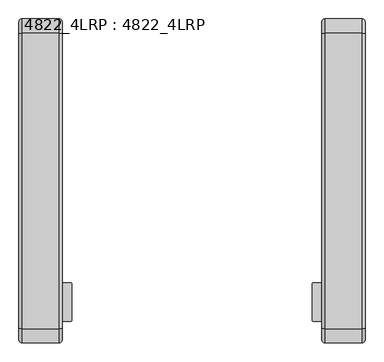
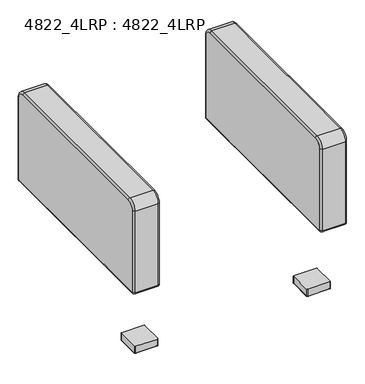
"""IFC4 building model written with IfcOpenShell, lengths in millimetres: furniture geometry, 4822_4LRP : 4822_4LRP."""

from ifc_helpers import new_model, si_unit, point, frame, frame_2d, origin, place, context, project, spatial, polyline, circle_curve, ellipse_curve, trimmed, segment, composite_curve, outline, extrude, source, transform, mapped, element, save
from ifc_brep_helpers import plane_surface, cylinder_surface, revolved_surface, advanced_brep


def furniture_4822_4lrp_4822_4lrp_52ce8049(model_context):
    return source(origin(), model_context, "Body", "SolidModel", [
        advanced_brep(
        [(457.2, -8.89, 698.8175), (457.2, -38.1, 728.0275), (457.2, -819.15, 728.0275), (457.2, -848.36, 698.8175), (457.2, -848.36, 330.4403326), (457.2, -847.8021674, 329.8825), (457.2, -9.4347305, 329.8825), (457.2, -8.89, 330.4272305), (342.9, -38.1, 728.0275), (342.9, -8.89, 698.8175), (342.9, -8.89, 330.4272305), (342.9, -9.4347305, 329.8825), (342.9, -847.8021674, 329.8825), (342.9, -848.36, 330.4403326), (342.9, -848.36, 698.8175), (342.9, -819.15, 728.0275), (351.79, -38.1, 736.9175), (351.79, -819.15, 736.9175), (448.31, -819.15, 736.9175), (448.31, -38.1, 736.9175), (351.79, -857.25, 698.8175), (448.31, -857.25, 698.8175), (351.79, -857.25, 330.4403326), (448.31, -857.25, 330.4403326), (351.79, -847.8021674, 320.9925), (448.31, -847.8021674, 320.9925), (351.79, -9.4347305, 320.9925), (448.31, -9.4347305, 320.9925), (400.05, -161.925, 320.9925), (400.05, -187.325, 320.9925), (400.05, -669.925, 320.9925), (400.05, -695.325, 320.9925), (351.79, 0.0, 330.4272305), (448.31, 0.0, 330.4272305), (351.79, 0.0, 698.8175), (448.31, 0.0, 698.8175), (400.05, -161.925, 333.6925), (400.05, -187.325, 333.6925), (400.05, -669.925, 333.6925), (400.05, -695.325, 333.6925)],
        [
            (0, 1, circle_curve(frame((457.2, -38.1, 698.8175), z_axis=(1.0, 0.0, 0.0), x_axis=(0.0, 0.0, 1.0)), 29.21)),
            (1, 2),
            (2, 3, circle_curve(frame((457.2, -819.15, 698.8175), z_axis=(1.0, 0.0, 0.0), x_axis=(0.0, -1.0, 0.0)), 29.21)),
            (3, 4),
            (4, 5, circle_curve(frame((457.2, -847.8021674, 330.4403326), z_axis=(1.0, 0.0, 0.0), x_axis=(0.0, 0.0, -1.0)), 0.5578326)),
            (5, 6),
            (6, 7, circle_curve(frame((457.2, -9.4347305, 330.4272305), z_axis=(1.0, 0.0, 0.0), x_axis=(0.0, 1.0, 0.0)), 0.5447305)),
            (7, 0),
            (8, 9, circle_curve(frame((342.9, -38.1, 698.8175), z_axis=(-1.0, 0.0, 0.0), x_axis=(0.0, 0.0, 1.0)), 29.21)),
            (9, 10),
            (10, 11, circle_curve(frame((342.9, -9.4347305, 330.4272305), z_axis=(-1.0, 0.0, 0.0), x_axis=(0.0, 1.0, 0.0)), 0.5447305)),
            (11, 12),
            (12, 13, circle_curve(frame((342.9, -847.8021674, 330.4403326), z_axis=(-1.0, 0.0, 0.0), x_axis=(0.0, 0.0, -1.0)), 0.5578326)),
            (13, 14),
            (14, 15, circle_curve(frame((342.9, -819.15, 698.8175), z_axis=(-1.0, 0.0, 0.0), x_axis=(0.0, -1.0, 0.0)), 29.21)),
            (15, 8),
            (16, 17),
            (17, 18),
            (18, 19),
            (19, 16),
            (17, 20, circle_curve(frame((351.79, -819.15, 698.8175), z_axis=(1.0, 0.0, 0.0), x_axis=(0.0, -1.0, 0.0)), 38.1)),
            (20, 21),
            (21, 18, circle_curve(frame((448.31, -819.15, 698.8175), z_axis=(-1.0, 0.0, 0.0), x_axis=(0.0, -1.0, 0.0)), 38.1)),
            (20, 22),
            (22, 23),
            (23, 21),
            (22, 24, circle_curve(frame((351.79, -847.8021674, 330.4403326), z_axis=(1.0, 0.0, 0.0), x_axis=(0.0, -1.0, 0.0)), 9.4478326)),
            (24, 25),
            (25, 23, circle_curve(frame((448.31, -847.8021674, 330.4403326), z_axis=(-1.0, 0.0, 0.0), x_axis=(0.0, -1.0, 0.0)), 9.4478326)),
            (24, 26),
            (26, 27),
            (27, 25),
            (28, 29, circle_curve(frame((400.05, -174.625, 320.9925), z_axis=(0.0, 0.0, 1.0), x_axis=(1.0, 0.0, 0.0)), 12.7)),
            (29, 28),
            (30, 31, circle_curve(frame((400.05, -682.625, 320.9925), z_axis=(0.0, 0.0, 1.0), x_axis=(1.0, 0.0, 0.0)), 12.7)),
            (31, 30),
            (26, 32, circle_curve(frame((351.79, -9.4347305, 330.4272305), z_axis=(1.0, 0.0, 0.0), x_axis=(0.0, -1.0, 0.0)), 9.4347305)),
            (32, 33),
            (33, 27, circle_curve(frame((448.31, -9.4347305, 330.4272305), z_axis=(-1.0, 0.0, 0.0), x_axis=(0.0, -1.0, 0.0)), 9.4347305)),
            (32, 34),
            (34, 35),
            (35, 33),
            (34, 16, circle_curve(frame((351.79, -38.1, 698.8175), z_axis=(1.0, 0.0, 0.0), x_axis=(0.0, -1.0, 0.0)), 38.1)),
            (19, 35, circle_curve(frame((448.31, -38.1, 698.8175), z_axis=(-1.0, 0.0, 0.0), x_axis=(0.0, -1.0, 0.0)), 38.1)),
            (34, 9, circle_curve(frame((351.79, -8.89, 698.8175), z_axis=(0.0, 0.0, 1.0), x_axis=(1.0, 0.0, 0.0)), 8.89)),
            (8, 16, circle_curve(frame((351.79, -38.1, 728.0275), z_axis=(0.0, 1.0, 0.0), x_axis=(1.0, 0.0, 0.0)), 8.89)),
            (32, 10, circle_curve(frame((351.79, -8.89, 330.4272305), z_axis=(0.0, 0.0, 1.0), x_axis=(1.0, 0.0, 0.0)), 8.89)),
            (26, 11, circle_curve(frame((351.79, -9.4347305, 329.8825), z_axis=(0.0, 1.0, 0.0), x_axis=(1.0, 0.0, 0.0)), 8.89)),
            (24, 12, circle_curve(frame((351.79, -847.8021674, 329.8825), z_axis=(0.0, 1.0, 0.0), x_axis=(1.0, 0.0, 0.0)), 8.89)),
            (22, 13, circle_curve(frame((351.79, -848.36, 330.4403326), z_axis=(0.0, 0.0, -1.0), x_axis=(1.0, 0.0, 0.0)), 8.89)),
            (20, 14, circle_curve(frame((351.79, -848.36, 698.8175), z_axis=(0.0, 0.0, -1.0), x_axis=(1.0, 0.0, 0.0)), 8.89)),
            (17, 15, circle_curve(frame((351.79, -819.15, 728.0275), z_axis=(0.0, -1.0, 0.0), x_axis=(1.0, 0.0, 0.0)), 8.89)),
            (0, 35, circle_curve(frame((448.31, -8.89, 698.8175), z_axis=(0.0, 0.0, 1.0), x_axis=(-1.0, 0.0, 0.0)), 8.89)),
            (19, 1, circle_curve(frame((448.31, -38.1, 728.0275), z_axis=(0.0, 1.0, 0.0), x_axis=(-1.0, 0.0, 0.0)), 8.89)),
            (7, 33, circle_curve(frame((448.31, -8.89, 330.4272305), z_axis=(0.0, 0.0, 1.0), x_axis=(-1.0, 0.0, 0.0)), 8.89)),
            (6, 27, circle_curve(frame((448.31, -9.4347305, 329.8825), z_axis=(0.0, 1.0, 0.0), x_axis=(-1.0, 0.0, 0.0)), 8.89)),
            (5, 25, circle_curve(frame((448.31, -847.8021674, 329.8825), z_axis=(0.0, 1.0, 0.0), x_axis=(-1.0, 0.0, 0.0)), 8.89)),
            (4, 23, circle_curve(frame((448.31, -848.36, 330.4403326), z_axis=(0.0, 0.0, -1.0), x_axis=(-1.0, 0.0, 0.0)), 8.89)),
            (3, 21, circle_curve(frame((448.31, -848.36, 698.8175), z_axis=(0.0, 0.0, -1.0), x_axis=(-1.0, 0.0, 0.0)), 8.89)),
            (2, 18, circle_curve(frame((448.31, -819.15, 728.0275), z_axis=(0.0, -1.0, 0.0), x_axis=(-1.0, 0.0, 0.0)), 8.89)),
            (36, 37),
            (37, 36, circle_curve(frame((400.05, -174.625, 333.6925), z_axis=(0.0, 0.0, -1.0), x_axis=(1.0, 0.0, 0.0)), 12.7)),
            (38, 39),
            (39, 38, circle_curve(frame((400.05, -682.625, 333.6925), z_axis=(0.0, 0.0, -1.0), x_axis=(1.0, 0.0, 0.0)), 12.7)),
            (37, 29),
            (28, 36),
            (39, 31),
            (30, 38),
        ],
        [
            plane_surface(frame((457.2, -819.15, 736.9175), z_axis=(1.0, 0.0, 0.0), x_axis=(0.0, -1.0, 0.0))),
            plane_surface(frame((342.9, -819.15, 736.9175), z_axis=(-1.0, 0.0, 0.0), x_axis=(0.0, 1.0, 0.0))),
            plane_surface(frame((457.2, -38.1, 736.9175), z_axis=(0.0, 0.0, 1.0), x_axis=(-1.0, 0.0, 0.0))),
            cylinder_surface(frame((342.9, -819.15, 698.8175), z_axis=(1.0, 0.0, 0.0), x_axis=(0.0, -1.0, 0.0)), 38.1),
            plane_surface(frame((457.2, -857.25, 698.8175), z_axis=(0.0, -1.0, 0.0), x_axis=(-1.0, 0.0, 0.0))),
            cylinder_surface(frame((342.9, -847.8021674, 330.4403326), z_axis=(1.0, 0.0, 0.0), x_axis=(0.0, -1.0, 0.0)), 9.4478326),
            plane_surface(frame((457.2, -847.8021674, 320.9925), z_axis=(0.0, 0.0, -1.0), x_axis=(-1.0, 0.0, 0.0))),
            cylinder_surface(frame((342.9, -9.4347305, 330.4272305), z_axis=(1.0, 0.0, 0.0), x_axis=(0.0, -1.0, 0.0)), 9.4347305),
            plane_surface(frame((457.2, 0.0, 330.4272305), z_axis=(0.0, 1.0, 0.0), x_axis=(-1.0, 0.0, 0.0))),
            cylinder_surface(frame((342.9, -38.1, 698.8175), z_axis=(1.0, 0.0, 0.0), x_axis=(0.0, -1.0, 0.0)), 38.1),
            revolved_surface(trimmed(ellipse_curve(frame((351.79, -38.1, 728.0275), z_axis=(0.0, -1.0, 0.0), x_axis=(1.0, 0.0, 0.0)), 8.89, 8.89), [point((351.79, -38.1, 736.9175))], [point((342.9, -38.1, 728.0275))], True, "CARTESIAN"), (342.9, -38.1, 698.8175), (-1.0, 0.0, 0.0)),
            cylinder_surface(frame((351.79, -8.89, 698.8175), z_axis=(0.0, 0.0, -1.0), x_axis=(1.0, 0.0, 0.0)), 8.89),
            revolved_surface(trimmed(ellipse_curve(frame((351.79, -8.89, 330.4272305), z_axis=(0.0, 0.0, 1.0), x_axis=(1.0, 0.0, 0.0)), 8.89, 8.89), [point((351.79, 0.0, 330.4272305))], [point((342.9, -8.89, 330.4272305))], True, "CARTESIAN"), (342.9, -9.4347305, 330.4272305), (-1.0, 0.0, 0.0)),
            cylinder_surface(frame((351.79, -9.4347305, 329.8825), z_axis=(0.0, -1.0, 0.0), x_axis=(1.0, 0.0, 0.0)), 8.89),
            revolved_surface(trimmed(ellipse_curve(frame((351.79, -847.8021674, 329.8825), z_axis=(0.0, 1.0, 0.0), x_axis=(1.0, 0.0, 0.0)), 8.89, 8.89), [point((351.79, -847.8021674, 320.9925))], [point((342.9, -847.8021674, 329.8825))], True, "CARTESIAN"), (342.9, -847.8021674, 330.4403326), (-1.0, 0.0, 0.0)),
            cylinder_surface(frame((351.79, -848.36, 330.4403326), z_axis=(0.0, 0.0, 1.0), x_axis=(1.0, 0.0, 0.0)), 8.89),
            revolved_surface(trimmed(ellipse_curve(frame((351.79, -848.36, 698.8175), z_axis=(0.0, 0.0, -1.0), x_axis=(1.0, 0.0, 0.0)), 8.89, 8.89), [point((351.79, -857.25, 698.8175))], [point((342.9, -848.36, 698.8175))], True, "CARTESIAN"), (342.9, -819.15, 698.8175), (-1.0, 0.0, 0.0)),
            cylinder_surface(frame((351.79, -819.15, 728.0275), z_axis=(0.0, 1.0, 0.0), x_axis=(1.0, 0.0, 0.0)), 8.89),
            revolved_surface(trimmed(ellipse_curve(frame((448.31, -38.1, 728.0275), z_axis=(0.0, -1.0, 0.0), x_axis=(-1.0, 0.0, 0.0)), 8.89, 8.89), [point((457.2, -38.1, 728.0275))], [point((448.31, -38.1, 736.9175))], True, "CARTESIAN"), (457.2, -38.1, 698.8175), (-1.0, 0.0, 0.0)),
            cylinder_surface(frame((448.31, -8.89, 698.8175), z_axis=(0.0, 0.0, -1.0), x_axis=(-1.0, 0.0, 0.0)), 8.89),
            revolved_surface(trimmed(ellipse_curve(frame((448.31, -8.89, 330.4272305), z_axis=(0.0, 0.0, 1.0), x_axis=(-1.0, 0.0, 0.0)), 8.89, 8.89), [point((457.2, -8.89, 330.4272305))], [point((448.31, 0.0, 330.4272305))], True, "CARTESIAN"), (457.2, -9.4347305, 330.4272305), (-1.0, 0.0, 0.0)),
            cylinder_surface(frame((448.31, -9.4347305, 329.8825), z_axis=(0.0, -1.0, 0.0), x_axis=(-1.0, 0.0, 0.0)), 8.89),
            revolved_surface(trimmed(ellipse_curve(frame((448.31, -847.8021674, 329.8825), z_axis=(0.0, 1.0, 0.0), x_axis=(-1.0, 0.0, 0.0)), 8.89, 8.89), [point((457.2, -847.8021674, 329.8825))], [point((448.31, -847.8021674, 320.9925))], True, "CARTESIAN"), (457.2, -847.8021674, 330.4403326), (-1.0, 0.0, 0.0)),
            cylinder_surface(frame((448.31, -848.36, 330.4403326), z_axis=(0.0, 0.0, 1.0), x_axis=(-1.0, 0.0, 0.0)), 8.89),
            revolved_surface(trimmed(ellipse_curve(frame((448.31, -848.36, 698.8175), z_axis=(0.0, 0.0, -1.0), x_axis=(-1.0, 0.0, 0.0)), 8.89, 8.89), [point((457.2, -848.36, 698.8175))], [point((448.31, -857.25, 698.8175))], True, "CARTESIAN"), (457.2, -819.15, 698.8175), (-1.0, 0.0, 0.0)),
            cylinder_surface(frame((448.31, -819.15, 728.0275), z_axis=(0.0, 1.0, 0.0), x_axis=(-1.0, 0.0, 0.0)), 8.89),
            plane_surface(frame((412.75, -174.625, 333.6925), z_axis=(0.0, 0.0, -1.0), x_axis=(0.0, 1.0, 0.0))),
            revolved_surface(polyline([(412.75, -174.625, 333.6925), (412.75, -174.625, 320.9925)]), (400.05, -174.625, 320.9925), (0.0, 0.0, 1.0)),
            plane_surface(frame((400.05, -187.325, 333.6925), z_axis=(-1.0, 0.0, 0.0), x_axis=(0.0, 0.0, -1.0))),
            revolved_surface(polyline([(412.75, -682.625, 333.6925), (412.75, -682.625, 320.9925)]), (400.05, -682.625, 9.8425), (0.0, 0.0, 1.0)),
            plane_surface(frame((400.05, -695.325, 333.6925), z_axis=(-1.0, 0.0, 0.0), x_axis=(0.0, 0.0, -1.0))),
        ],
        [
            (0, [[1, 2, 3, 4, 5, 6, 7, 8]]),
            (1, [[9, 10, 11, 12, 13, 14, 15, 16]]),
            (2, [[17, 18, 19, 20]]),
            (3, [[21, 22, 23, -18]]),
            (4, [[24, 25, 26, -22]]),
            (5, [[27, 28, 29, -25]]),
            (6, [[30, 31, 32, -28], [33, 34], [35, 36]]),
            (7, [[37, 38, 39, -31]]),
            (8, [[40, 41, 42, -38]]),
            (9, [[43, -20, 44, -41]]),
            (10, [[45, -9, 46, -43]]),
            (11, [[-45, -40, 47, -10]]),
            (12, [[-47, -37, 48, -11]]),
            (13, [[-48, -30, 49, -12]]),
            (14, [[-49, -27, 50, -13]]),
            (15, [[-50, -24, 51, -14]]),
            (16, [[-51, -21, 52, -15]]),
            (17, [[-46, -16, -52, -17]]),
            (18, [[53, -44, 54, -1]]),
            (19, [[-53, -8, 55, -42]]),
            (20, [[-55, -7, 56, -39]]),
            (21, [[-56, -6, 57, -32]]),
            (22, [[-57, -5, 58, -29]]),
            (23, [[-58, -4, 59, -26]]),
            (24, [[-59, -3, 60, -23]]),
            (25, [[-54, -19, -60, -2]]),
            (26, [[61, 62]]),
            (26, [[63, 64]]),
            (27, [[-62, 65, -33, 66]]),
            (28, [[-61, -66, -34, -65]]),
            (29, [[-64, 67, -35, 68]]),
            (30, [[-63, -68, -36, -67]]),
        ],
    ),
        advanced_brep(
        [(-342.9, -8.89, 698.8175), (-342.9, -38.1, 728.0275), (-342.9, -819.15, 728.0275), (-342.9, -848.36, 698.8175), (-342.9, -848.36, 330.4403326), (-342.9, -847.8021674, 329.8825), (-342.9, -9.4347305, 329.8825), (-342.9, -8.89, 330.4272305), (-457.2, -38.1, 728.0275), (-457.2, -8.89, 698.8175), (-457.2, -8.89, 330.4272305), (-457.2, -9.4347305, 329.8825), (-457.2, -847.8021674, 329.8825), (-457.2, -848.36, 330.4403326), (-457.2, -848.36, 698.8175), (-457.2, -819.15, 728.0275), (-448.31, -38.1, 736.9175), (-448.31, -819.15, 736.9175), (-351.79, -819.15, 736.9175), (-351.79, -38.1, 736.9175), (-448.31, -857.25, 698.8175), (-351.79, -857.25, 698.8175), (-448.31, -857.25, 330.4403326), (-351.79, -857.25, 330.4403326), (-448.31, -847.8021674, 320.9925), (-351.79, -847.8021674, 320.9925), (-448.31, -9.4347305, 320.9925), (-351.79, -9.4347305, 320.9925), (-400.05, -187.325, 320.9925), (-400.05, -161.925, 320.9925), (-400.05, -695.325, 320.9925), (-400.05, -669.925, 320.9925), (-448.31, 0.0, 330.4272305), (-351.79, 0.0, 330.4272305), (-448.31, 0.0, 698.8175), (-351.79, 0.0, 698.8175), (-400.05, -161.925, 333.6925), (-400.05, -187.325, 333.6925), (-400.05, -669.925, 333.6925), (-400.05, -695.325, 333.6925)],
        [
            (0, 1, circle_curve(frame((-342.9, -38.1, 698.8175), z_axis=(1.0, 0.0, 0.0), x_axis=(0.0, 0.0, 1.0)), 29.21)),
            (1, 2),
            (2, 3, circle_curve(frame((-342.9, -819.15, 698.8175), z_axis=(1.0, 0.0, 0.0), x_axis=(0.0, -1.0, 0.0)), 29.21)),
            (3, 4),
            (4, 5, circle_curve(frame((-342.9, -847.8021674, 330.4403326), z_axis=(1.0, 0.0, 0.0), x_axis=(0.0, 0.0, -1.0)), 0.5578326)),
            (5, 6),
            (6, 7, circle_curve(frame((-342.9, -9.4347305, 330.4272305), z_axis=(1.0, 0.0, 0.0), x_axis=(0.0, 1.0, 0.0)), 0.5447305)),
            (7, 0),
            (8, 9, circle_curve(frame((-457.2, -38.1, 698.8175), z_axis=(-1.0, 0.0, 0.0), x_axis=(0.0, 0.0, 1.0)), 29.21)),
            (9, 10),
            (10, 11, circle_curve(frame((-457.2, -9.4347305, 330.4272305), z_axis=(-1.0, 0.0, 0.0), x_axis=(0.0, 1.0, 0.0)), 0.5447305)),
            (11, 12),
            (12, 13, circle_curve(frame((-457.2, -847.8021674, 330.4403326), z_axis=(-1.0, 0.0, 0.0), x_axis=(0.0, 0.0, -1.0)), 0.5578326)),
            (13, 14),
            (14, 15, circle_curve(frame((-457.2, -819.15, 698.8175), z_axis=(-1.0, 0.0, 0.0), x_axis=(0.0, -1.0, 0.0)), 29.21)),
            (15, 8),
            (16, 17),
            (17, 18),
            (18, 19),
            (19, 16),
            (17, 20, circle_curve(frame((-448.31, -819.15, 698.8175), z_axis=(1.0, 0.0, 0.0), x_axis=(0.0, -1.0, 0.0)), 38.1)),
            (20, 21),
            (21, 18, circle_curve(frame((-351.79, -819.15, 698.8175), z_axis=(-1.0, 0.0, 0.0), x_axis=(0.0, -1.0, 0.0)), 38.1)),
            (20, 22),
            (22, 23),
            (23, 21),
            (22, 24, circle_curve(frame((-448.31, -847.8021674, 330.4403326), z_axis=(1.0, 0.0, 0.0), x_axis=(0.0, -1.0, 0.0)), 9.4478326)),
            (24, 25),
            (25, 23, circle_curve(frame((-351.79, -847.8021674, 330.4403326), z_axis=(-1.0, 0.0, 0.0), x_axis=(0.0, -1.0, 0.0)), 9.4478326)),
            (24, 26),
            (26, 27),
            (27, 25),
            (28, 29, circle_curve(frame((-400.05, -174.625, 320.9925), z_axis=(0.0, 0.0, 1.0), x_axis=(-1.0, 0.0, 0.0)), 12.7)),
            (29, 28),
            (30, 31, circle_curve(frame((-400.05, -682.625, 320.9925), z_axis=(0.0, 0.0, 1.0), x_axis=(-1.0, 0.0, 0.0)), 12.7)),
            (31, 30),
            (26, 32, circle_curve(frame((-448.31, -9.4347305, 330.4272305), z_axis=(1.0, 0.0, 0.0), x_axis=(0.0, -1.0, 0.0)), 9.4347305)),
            (32, 33),
            (33, 27, circle_curve(frame((-351.79, -9.4347305, 330.4272305), z_axis=(-1.0, 0.0, 0.0), x_axis=(0.0, -1.0, 0.0)), 9.4347305)),
            (32, 34),
            (34, 35),
            (35, 33),
            (34, 16, circle_curve(frame((-448.31, -38.1, 698.8175), z_axis=(1.0, 0.0, 0.0), x_axis=(0.0, -1.0, 0.0)), 38.1)),
            (19, 35, circle_curve(frame((-351.79, -38.1, 698.8175), z_axis=(-1.0, 0.0, 0.0), x_axis=(0.0, -1.0, 0.0)), 38.1)),
            (34, 9, circle_curve(frame((-448.31, -8.89, 698.8175), z_axis=(0.0, 0.0, 1.0), x_axis=(1.0, 0.0, 0.0)), 8.89)),
            (8, 16, circle_curve(frame((-448.31, -38.1, 728.0275), z_axis=(0.0, 1.0, 0.0), x_axis=(1.0, 0.0, 0.0)), 8.89)),
            (32, 10, circle_curve(frame((-448.31, -8.89, 330.4272305), z_axis=(0.0, 0.0, 1.0), x_axis=(1.0, 0.0, 0.0)), 8.89)),
            (26, 11, circle_curve(frame((-448.31, -9.4347305, 329.8825), z_axis=(0.0, 1.0, 0.0), x_axis=(1.0, 0.0, 0.0)), 8.89)),
            (24, 12, circle_curve(frame((-448.31, -847.8021674, 329.8825), z_axis=(0.0, 1.0, 0.0), x_axis=(1.0, 0.0, 0.0)), 8.89)),
            (22, 13, circle_curve(frame((-448.31, -848.36, 330.4403326), z_axis=(0.0, 0.0, -1.0), x_axis=(1.0, 0.0, 0.0)), 8.89)),
            (20, 14, circle_curve(frame((-448.31, -848.36, 698.8175), z_axis=(0.0, 0.0, -1.0), x_axis=(1.0, 0.0, 0.0)), 8.89)),
            (17, 15, circle_curve(frame((-448.31, -819.15, 728.0275), z_axis=(0.0, -1.0, 0.0), x_axis=(1.0, 0.0, 0.0)), 8.89)),
            (0, 35, circle_curve(frame((-351.79, -8.89, 698.8175), z_axis=(0.0, 0.0, 1.0), x_axis=(-1.0, 0.0, 0.0)), 8.89)),
            (19, 1, circle_curve(frame((-351.79, -38.1, 728.0275), z_axis=(0.0, 1.0, 0.0), x_axis=(-1.0, 0.0, 0.0)), 8.89)),
            (7, 33, circle_curve(frame((-351.79, -8.89, 330.4272305), z_axis=(0.0, 0.0, 1.0), x_axis=(-1.0, 0.0, 0.0)), 8.89)),
            (6, 27, circle_curve(frame((-351.79, -9.4347305, 329.8825), z_axis=(0.0, 1.0, 0.0), x_axis=(-1.0, 0.0, 0.0)), 8.89)),
            (5, 25, circle_curve(frame((-351.79, -847.8021674, 329.8825), z_axis=(0.0, 1.0, 0.0), x_axis=(-1.0, 0.0, 0.0)), 8.89)),
            (4, 23, circle_curve(frame((-351.79, -848.36, 330.4403326), z_axis=(0.0, 0.0, -1.0), x_axis=(-1.0, 0.0, 0.0)), 8.89)),
            (3, 21, circle_curve(frame((-351.79, -848.36, 698.8175), z_axis=(0.0, 0.0, -1.0), x_axis=(-1.0, 0.0, 0.0)), 8.89)),
            (2, 18, circle_curve(frame((-351.79, -819.15, 728.0275), z_axis=(0.0, -1.0, 0.0), x_axis=(-1.0, 0.0, 0.0)), 8.89)),
            (36, 37, circle_curve(frame((-400.05, -174.625, 333.6925), z_axis=(0.0, 0.0, -1.0), x_axis=(-1.0, 0.0, 0.0)), 12.7)),
            (37, 36),
            (38, 39, circle_curve(frame((-400.05, -682.625, 333.6925), z_axis=(0.0, 0.0, -1.0), x_axis=(-1.0, 0.0, 0.0)), 12.7)),
            (39, 38),
            (36, 29),
            (28, 37),
            (38, 31),
            (30, 39),
        ],
        [
            plane_surface(frame((-342.9, -819.15, 736.9175), z_axis=(1.0, 0.0, 0.0), x_axis=(0.0, -1.0, 0.0))),
            plane_surface(frame((-457.2, -819.15, 736.9175), z_axis=(-1.0, 0.0, 0.0), x_axis=(0.0, 1.0, 0.0))),
            plane_surface(frame((-342.9, -38.1, 736.9175), z_axis=(0.0, 0.0, 1.0), x_axis=(-1.0, 0.0, 0.0))),
            cylinder_surface(frame((-457.2, -819.15, 698.8175), z_axis=(1.0, 0.0, 0.0), x_axis=(0.0, -1.0, 0.0)), 38.1),
            plane_surface(frame((-342.9, -857.25, 698.8175), z_axis=(0.0, -1.0, 0.0), x_axis=(-1.0, 0.0, 0.0))),
            cylinder_surface(frame((-457.2, -847.8021674, 330.4403326), z_axis=(1.0, 0.0, 0.0), x_axis=(0.0, -1.0, 0.0)), 9.4478326),
            plane_surface(frame((-342.9, -847.8021674, 320.9925), z_axis=(0.0, 0.0, -1.0), x_axis=(-1.0, 0.0, 0.0))),
            cylinder_surface(frame((-457.2, -9.4347305, 330.4272305), z_axis=(1.0, 0.0, 0.0), x_axis=(0.0, -1.0, 0.0)), 9.4347305),
            plane_surface(frame((-342.9, 0.0, 330.4272305), z_axis=(0.0, 1.0, 0.0), x_axis=(-1.0, 0.0, 0.0))),
            cylinder_surface(frame((-457.2, -38.1, 698.8175), z_axis=(1.0, 0.0, 0.0), x_axis=(0.0, -1.0, 0.0)), 38.1),
            revolved_surface(trimmed(ellipse_curve(frame((-448.31, -38.1, 728.0275), z_axis=(0.0, -1.0, 0.0), x_axis=(1.0, 0.0, 0.0)), 8.89, 8.89), [point((-448.31, -38.1, 736.9175))], [point((-457.2, -38.1, 728.0275))], True, "CARTESIAN"), (-457.2, -38.1, 698.8175), (-1.0, 0.0, 0.0)),
            cylinder_surface(frame((-448.31, -8.89, 698.8175), z_axis=(0.0, 0.0, -1.0), x_axis=(1.0, 0.0, 0.0)), 8.89),
            revolved_surface(trimmed(ellipse_curve(frame((-448.31, -8.89, 330.4272305), z_axis=(0.0, 0.0, 1.0), x_axis=(1.0, 0.0, 0.0)), 8.89, 8.89), [point((-448.31, 0.0, 330.4272305))], [point((-457.2, -8.89, 330.4272305))], True, "CARTESIAN"), (-457.2, -9.4347305, 330.4272305), (-1.0, 0.0, 0.0)),
            cylinder_surface(frame((-448.31, -9.4347305, 329.8825), z_axis=(0.0, -1.0, 0.0), x_axis=(1.0, 0.0, 0.0)), 8.89),
            revolved_surface(trimmed(ellipse_curve(frame((-448.31, -847.8021674, 329.8825), z_axis=(0.0, 1.0, 0.0), x_axis=(1.0, 0.0, 0.0)), 8.89, 8.89), [point((-448.31, -847.8021674, 320.9925))], [point((-457.2, -847.8021674, 329.8825))], True, "CARTESIAN"), (-457.2, -847.8021674, 330.4403326), (-1.0, 0.0, 0.0)),
            cylinder_surface(frame((-448.31, -848.36, 330.4403326), z_axis=(0.0, 0.0, 1.0), x_axis=(1.0, 0.0, 0.0)), 8.89),
            revolved_surface(trimmed(ellipse_curve(frame((-448.31, -848.36, 698.8175), z_axis=(0.0, 0.0, -1.0), x_axis=(1.0, 0.0, 0.0)), 8.89, 8.89), [point((-448.31, -857.25, 698.8175))], [point((-457.2, -848.36, 698.8175))], True, "CARTESIAN"), (-457.2, -819.15, 698.8175), (-1.0, 0.0, 0.0)),
            cylinder_surface(frame((-448.31, -819.15, 728.0275), z_axis=(0.0, 1.0, 0.0), x_axis=(1.0, 0.0, 0.0)), 8.89),
            revolved_surface(trimmed(ellipse_curve(frame((-351.79, -38.1, 728.0275), z_axis=(0.0, -1.0, 0.0), x_axis=(-1.0, 0.0, 0.0)), 8.89, 8.89), [point((-342.9, -38.1, 728.0275))], [point((-351.79, -38.1, 736.9175))], True, "CARTESIAN"), (-342.9, -38.1, 698.8175), (-1.0, 0.0, 0.0)),
            cylinder_surface(frame((-351.79, -8.89, 698.8175), z_axis=(0.0, 0.0, -1.0), x_axis=(-1.0, 0.0, 0.0)), 8.89),
            revolved_surface(trimmed(ellipse_curve(frame((-351.79, -8.89, 330.4272305), z_axis=(0.0, 0.0, 1.0), x_axis=(-1.0, 0.0, 0.0)), 8.89, 8.89), [point((-342.9, -8.89, 330.4272305))], [point((-351.79, 0.0, 330.4272305))], True, "CARTESIAN"), (-342.9, -9.4347305, 330.4272305), (-1.0, 0.0, 0.0)),
            cylinder_surface(frame((-351.79, -9.4347305, 329.8825), z_axis=(0.0, -1.0, 0.0), x_axis=(-1.0, 0.0, 0.0)), 8.89),
            revolved_surface(trimmed(ellipse_curve(frame((-351.79, -847.8021674, 329.8825), z_axis=(0.0, 1.0, 0.0), x_axis=(-1.0, 0.0, 0.0)), 8.89, 8.89), [point((-342.9, -847.8021674, 329.8825))], [point((-351.79, -847.8021674, 320.9925))], True, "CARTESIAN"), (-342.9, -847.8021674, 330.4403326), (-1.0, 0.0, 0.0)),
            cylinder_surface(frame((-351.79, -848.36, 330.4403326), z_axis=(0.0, 0.0, 1.0), x_axis=(-1.0, 0.0, 0.0)), 8.89),
            revolved_surface(trimmed(ellipse_curve(frame((-351.79, -848.36, 698.8175), z_axis=(0.0, 0.0, -1.0), x_axis=(-1.0, 0.0, 0.0)), 8.89, 8.89), [point((-342.9, -848.36, 698.8175))], [point((-351.79, -857.25, 698.8175))], True, "CARTESIAN"), (-342.9, -819.15, 698.8175), (-1.0, 0.0, 0.0)),
            cylinder_surface(frame((-351.79, -819.15, 728.0275), z_axis=(0.0, 1.0, 0.0), x_axis=(-1.0, 0.0, 0.0)), 8.89),
            plane_surface(frame((-400.05, -187.325, 333.6925), z_axis=(0.0, 0.0, -1.0), x_axis=(0.0, -1.0, 0.0))),
            revolved_surface(polyline([(-412.75, -174.625, 333.6925), (-412.75, -174.625, 320.9925)]), (-400.05, -174.625, 320.9925), (0.0, 0.0, 1.0)),
            plane_surface(frame((-400.05, -161.925, 333.6925), z_axis=(1.0, 0.0, 0.0), x_axis=(0.0, 0.0, -1.0))),
            revolved_surface(polyline([(-412.75, -682.625, 333.6925), (-412.75, -682.625, 320.9925)]), (-400.05, -682.625, 9.8425), (0.0, 0.0, 1.0)),
            plane_surface(frame((-400.05, -669.925, 333.6925), z_axis=(1.0, 0.0, 0.0), x_axis=(0.0, 0.0, -1.0))),
        ],
        [
            (0, [[1, 2, 3, 4, 5, 6, 7, 8]]),
            (1, [[9, 10, 11, 12, 13, 14, 15, 16]]),
            (2, [[17, 18, 19, 20]]),
            (3, [[21, 22, 23, -18]]),
            (4, [[24, 25, 26, -22]]),
            (5, [[27, 28, 29, -25]]),
            (6, [[30, 31, 32, -28], [33, 34], [35, 36]]),
            (7, [[37, 38, 39, -31]]),
            (8, [[40, 41, 42, -38]]),
            (9, [[43, -20, 44, -41]]),
            (10, [[45, -9, 46, -43]]),
            (11, [[-45, -40, 47, -10]]),
            (12, [[-47, -37, 48, -11]]),
            (13, [[-48, -30, 49, -12]]),
            (14, [[-49, -27, 50, -13]]),
            (15, [[-50, -24, 51, -14]]),
            (16, [[-51, -21, 52, -15]]),
            (17, [[-46, -16, -52, -17]]),
            (18, [[53, -44, 54, -1]]),
            (19, [[-53, -8, 55, -42]]),
            (20, [[-55, -7, 56, -39]]),
            (21, [[-56, -6, 57, -32]]),
            (22, [[-57, -5, 58, -29]]),
            (23, [[-58, -4, 59, -26]]),
            (24, [[-59, -3, 60, -23]]),
            (25, [[-54, -19, -60, -2]]),
            (26, [[61, 62]]),
            (26, [[63, 64]]),
            (27, [[-61, 65, -33, 66]]),
            (28, [[-62, -66, -34, -65]]),
            (29, [[-63, 67, -35, 68]]),
            (30, [[-64, -68, -36, -67]]),
        ],
    ),
        advanced_brep(
        [(-320.675, -698.5, 41.5925), (-415.925, -698.5, 41.5925), (-419.1, -701.675, 41.5925), (-419.1, -796.925, 41.5925), (-415.925, -800.1, 41.5925), (-320.675, -800.1, 41.5925), (-317.5, -796.925, 41.5925), (-317.5, -701.675, 41.5925), (-417.83, -701.675, 11.1125), (-415.925, -699.77, 11.1125), (-320.675, -699.77, 11.1125), (-318.77, -701.675, 11.1125), (-318.77, -796.925, 11.1125), (-320.675, -798.83, 11.1125), (-415.925, -798.83, 11.1125), (-417.83, -796.925, 11.1125), (-320.675, -698.5, 11.1125), (-415.925, -698.5, 11.1125), (-419.1, -701.675, 11.1125), (-419.1, -796.925, 11.1125), (-415.925, -800.1, 11.1125), (-320.675, -800.1, 11.1125), (-317.5, -796.925, 11.1125), (-317.5, -701.675, 11.1125), (-415.925, -699.77, 9.8425), (-417.83, -701.675, 9.8425), (-320.675, -699.77, 9.8425), (-318.77, -701.675, 9.8425), (-318.77, -796.925, 9.8425), (-320.675, -798.83, 9.8425), (-415.925, -798.83, 9.8425), (-417.83, -796.925, 9.8425)],
        [
            (0, 1),
            (1, 2, circle_curve(frame((-415.925, -701.675, 41.5925), z_axis=(0.0, 0.0, 1.0), x_axis=(1.0, 0.0, 0.0)), 3.175)),
            (2, 3),
            (3, 4, circle_curve(frame((-415.925, -796.925, 41.5925), z_axis=(0.0, 0.0, 1.0), x_axis=(1.0, 0.0, 0.0)), 3.175)),
            (4, 5),
            (5, 6, circle_curve(frame((-320.675, -796.925, 41.5925), z_axis=(0.0, 0.0, 1.0), x_axis=(1.0, 0.0, 0.0)), 3.175)),
            (6, 7),
            (7, 0, circle_curve(frame((-320.675, -701.675, 41.5925), z_axis=(0.0, 0.0, 1.0), x_axis=(1.0, 0.0, 0.0)), 3.175)),
            (8, 9, circle_curve(frame((-415.925, -701.675, 11.1125), z_axis=(0.0, 0.0, -1.0), x_axis=(-1.0, 0.0, 0.0)), 1.905)),
            (9, 10),
            (10, 11, circle_curve(frame((-320.675, -701.675, 11.1125), z_axis=(0.0, 0.0, -1.0), x_axis=(0.0, 1.0, 0.0)), 1.905)),
            (11, 12),
            (12, 13, circle_curve(frame((-320.675, -796.925, 11.1125), z_axis=(0.0, 0.0, -1.0), x_axis=(1.0, 0.0, 0.0)), 1.905)),
            (13, 14),
            (14, 15, circle_curve(frame((-415.925, -796.925, 11.1125), z_axis=(0.0, 0.0, -1.0), x_axis=(0.0, -1.0, 0.0)), 1.905)),
            (15, 8),
            (0, 16),
            (16, 17),
            (17, 1),
            (17, 18, circle_curve(frame((-415.925, -701.675, 11.1125), z_axis=(0.0, 0.0, 1.0), x_axis=(1.0, 0.0, 0.0)), 3.175)),
            (18, 2),
            (18, 19),
            (19, 3),
            (19, 20, circle_curve(frame((-415.925, -796.925, 11.1125), z_axis=(0.0, 0.0, 1.0), x_axis=(1.0, 0.0, 0.0)), 3.175)),
            (20, 4),
            (20, 21),
            (21, 5),
            (21, 22, circle_curve(frame((-320.675, -796.925, 11.1125), z_axis=(0.0, 0.0, 1.0), x_axis=(1.0, 0.0, 0.0)), 3.175)),
            (22, 6),
            (22, 23),
            (23, 7),
            (23, 16, circle_curve(frame((-320.675, -701.675, 11.1125), z_axis=(0.0, 0.0, 1.0), x_axis=(1.0, 0.0, 0.0)), 3.175)),
            (24, 25, circle_curve(frame((-415.925, -701.675, 9.8425), z_axis=(0.0, 0.0, 1.0), x_axis=(-1.0, 0.0, 0.0)), 1.905)),
            (25, 18, circle_curve(frame((-417.83, -701.675, 11.1125), z_axis=(0.0, 1.0, 0.0), x_axis=(1.0, 0.0, 0.0)), 1.27)),
            (17, 24, circle_curve(frame((-415.925, -699.77, 11.1125), z_axis=(-1.0, 0.0, 0.0), x_axis=(0.0, -1.0, 0.0)), 1.27)),
            (16, 26, circle_curve(frame((-320.675, -699.77, 11.1125), z_axis=(-1.0, 0.0, 0.0), x_axis=(0.0, -1.0, 0.0)), 1.27)),
            (26, 24),
            (23, 27, circle_curve(frame((-318.77, -701.675, 11.1125), z_axis=(0.0, 1.0, 0.0), x_axis=(-1.0, 0.0, 0.0)), 1.27)),
            (27, 26, circle_curve(frame((-320.675, -701.675, 9.8425), z_axis=(0.0, 0.0, 1.0), x_axis=(0.0, 1.0, 0.0)), 1.905)),
            (22, 28, circle_curve(frame((-318.77, -796.925, 11.1125), z_axis=(0.0, 1.0, 0.0), x_axis=(-1.0, 0.0, 0.0)), 1.27)),
            (28, 27),
            (21, 29, circle_curve(frame((-320.675, -798.83, 11.1125), z_axis=(1.0, 0.0, 0.0), x_axis=(0.0, 1.0, 0.0)), 1.27)),
            (29, 28, circle_curve(frame((-320.675, -796.925, 9.8425), z_axis=(0.0, 0.0, 1.0), x_axis=(1.0, 0.0, 0.0)), 1.905)),
            (20, 30, circle_curve(frame((-415.925, -798.83, 11.1125), z_axis=(1.0, 0.0, 0.0), x_axis=(0.0, 1.0, 0.0)), 1.27)),
            (30, 29),
            (19, 31, circle_curve(frame((-417.83, -796.925, 11.1125), z_axis=(0.0, -1.0, 0.0), x_axis=(1.0, 0.0, 0.0)), 1.27)),
            (31, 30, circle_curve(frame((-415.925, -796.925, 9.8425), z_axis=(0.0, 0.0, 1.0), x_axis=(0.0, -1.0, 0.0)), 1.905)),
            (25, 31),
            (24, 9),
            (8, 25),
            (26, 10),
            (27, 11),
            (28, 12),
            (29, 13),
            (30, 14),
            (31, 15),
        ],
        [
            plane_surface(frame((-415.925, -698.5, 41.5925), z_axis=(0.0, 0.0, 1.0), x_axis=(-1.0, 0.0, 0.0))),
            plane_surface(frame((-415.925, -698.5, 11.1125), z_axis=(0.0, 0.0, -1.0), x_axis=(1.0, 0.0, 0.0))),
            plane_surface(frame((-320.675, -698.5, 41.5925), z_axis=(0.0, 1.0, 0.0), x_axis=(0.0, 0.0, -1.0))),
            cylinder_surface(frame((-415.925, -701.675, 11.1125), z_axis=(0.0, 0.0, 1.0), x_axis=(1.0, 0.0, 0.0)), 3.175),
            plane_surface(frame((-419.1, -701.675, 41.5925), z_axis=(-1.0, 0.0, 0.0), x_axis=(0.0, 0.0, -1.0))),
            cylinder_surface(frame((-415.925, -796.925, 11.1125), z_axis=(0.0, 0.0, 1.0), x_axis=(1.0, 0.0, 0.0)), 3.175),
            plane_surface(frame((-415.925, -800.1, 41.5925), z_axis=(0.0, -1.0, 0.0), x_axis=(0.0, 0.0, -1.0))),
            cylinder_surface(frame((-320.675, -796.925, 11.1125), z_axis=(0.0, 0.0, 1.0), x_axis=(1.0, 0.0, 0.0)), 3.175),
            plane_surface(frame((-317.5, -796.925, 41.5925), z_axis=(1.0, 0.0, 0.0), x_axis=(0.0, 0.0, -1.0))),
            cylinder_surface(frame((-320.675, -701.675, 11.1125), z_axis=(0.0, 0.0, 1.0), x_axis=(1.0, 0.0, 0.0)), 3.175),
            revolved_surface(trimmed(ellipse_curve(frame((-417.83, -701.675, 11.1125), z_axis=(0.0, -1.0, 0.0), x_axis=(1.0, 0.0, 0.0)), 1.27, 1.27), [point((-419.1, -701.675, 11.1125))], [point((-417.83, -701.675, 9.8425))], True, "CARTESIAN"), (-415.925, -701.675, 11.1125), (0.0, 0.0, -1.0)),
            cylinder_surface(frame((-415.925, -699.77, 11.1125), z_axis=(-1.0, 0.0, 0.0), x_axis=(0.0, -1.0, 0.0)), 1.27),
            revolved_surface(trimmed(ellipse_curve(frame((-320.675, -699.77, 11.1125), z_axis=(-1.0, 0.0, 0.0), x_axis=(0.0, -1.0, 0.0)), 1.27, 1.27), [point((-320.675, -698.5, 11.1125))], [point((-320.675, -699.77, 9.8425))], True, "CARTESIAN"), (-320.675, -701.675, 11.1125), (0.0, 0.0, -1.0)),
            cylinder_surface(frame((-318.77, -701.675, 11.1125), z_axis=(0.0, 1.0, 0.0), x_axis=(-1.0, 0.0, 0.0)), 1.27),
            revolved_surface(trimmed(ellipse_curve(frame((-318.77, -796.925, 11.1125), z_axis=(0.0, 1.0, 0.0), x_axis=(-1.0, 0.0, 0.0)), 1.27, 1.27), [point((-317.5, -796.925, 11.1125))], [point((-318.77, -796.925, 9.8425))], True, "CARTESIAN"), (-320.675, -796.925, 11.1125), (0.0, 0.0, -1.0)),
            cylinder_surface(frame((-320.675, -798.83, 11.1125), z_axis=(1.0, 0.0, 0.0), x_axis=(0.0, 1.0, 0.0)), 1.27),
            revolved_surface(trimmed(ellipse_curve(frame((-415.925, -798.83, 11.1125), z_axis=(1.0, 0.0, 0.0), x_axis=(0.0, 1.0, 0.0)), 1.27, 1.27), [point((-415.925, -800.1, 11.1125))], [point((-415.925, -798.83, 9.8425))], True, "CARTESIAN"), (-415.925, -796.925, 11.1125), (0.0, 0.0, -1.0)),
            cylinder_surface(frame((-417.83, -796.925, 11.1125), z_axis=(0.0, -1.0, 0.0), x_axis=(1.0, 0.0, 0.0)), 1.27),
            revolved_surface(polyline([(-417.83, -701.675, 9.8425), (-417.83, -701.675, 11.1125)]), (-415.925, -701.675, 11.1125), (0.0, 0.0, -1.0)),
            plane_surface(frame((-415.925, -699.77, 9.8425), z_axis=(0.0, -1.0, 0.0), x_axis=(1.0, 0.0, 0.0))),
            revolved_surface(polyline([(-320.675, -699.77, 9.8425), (-320.675, -699.77, 11.1125)]), (-320.675, -701.675, 11.1125), (0.0, 0.0, -1.0)),
            plane_surface(frame((-318.77, -701.675, 9.8425), z_axis=(-1.0, 0.0, 0.0), x_axis=(0.0, -1.0, 0.0))),
            revolved_surface(polyline([(-318.77000000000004, -796.925, 9.8425), (-318.77000000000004, -796.925, 11.1125)]), (-320.675, -796.925, 11.1125), (0.0, 0.0, -1.0)),
            plane_surface(frame((-320.675, -798.83, 9.8425), z_axis=(0.0, 1.0, 0.0), x_axis=(-1.0, 0.0, 0.0))),
            revolved_surface(polyline([(-415.925, -798.8299999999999, 9.8425), (-415.925, -798.8299999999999, 11.1125)]), (-415.925, -796.925, 11.1125), (0.0, 0.0, -1.0)),
            plane_surface(frame((-417.83, -796.925, 9.8425), z_axis=(1.0, 0.0, 0.0), x_axis=(0.0, 1.0, 0.0))),
        ],
        [
            (0, [[1, 2, 3, 4, 5, 6, 7, 8]]),
            (1, [[9, 10, 11, 12, 13, 14, 15, 16]]),
            (2, [[-1, 17, 18, 19]]),
            (3, [[-2, -19, 20, 21]]),
            (4, [[-3, -21, 22, 23]]),
            (5, [[-4, -23, 24, 25]]),
            (6, [[-5, -25, 26, 27]]),
            (7, [[-6, -27, 28, 29]]),
            (8, [[-7, -29, 30, 31]]),
            (9, [[-8, -31, 32, -17]]),
            (10, [[33, 34, -20, 35]]),
            (11, [[-35, -18, 36, 37]]),
            (12, [[-36, -32, 38, 39]]),
            (13, [[-38, -30, 40, 41]]),
            (14, [[-40, -28, 42, 43]]),
            (15, [[-42, -26, 44, 45]]),
            (16, [[-44, -24, 46, 47]]),
            (17, [[-34, 48, -46, -22]]),
            (18, [[-33, 49, -9, 50]]),
            (19, [[-37, 51, -10, -49]]),
            (20, [[-39, 52, -11, -51]]),
            (21, [[-41, 53, -12, -52]]),
            (22, [[-43, 54, -13, -53]]),
            (23, [[-45, 55, -14, -54]]),
            (24, [[-47, 56, -15, -55]]),
            (25, [[-48, -50, -16, -56]]),
        ],
    ),
        extrude(outline(composite_curve([segment(trimmed(circle_curve(frame_2d((-415.925, -796.925)), 1.905), [point((-415.925, -798.83))], [point((-417.83, -796.925))], False, "CARTESIAN"), True, "CONTINUOUS"), segment(polyline([(-417.83, -796.925), (-417.83, -701.675)]), True, "CONTINUOUS"), segment(trimmed(circle_curve(frame_2d((-415.925, -701.675)), 1.905), [point((-417.83, -701.675))], [point((-415.925, -699.77))], False, "CARTESIAN"), True, "CONTINUOUS"), segment(polyline([(-415.925, -699.77), (-320.675, -699.77)]), True, "CONTINUOUS"), segment(trimmed(circle_curve(frame_2d((-320.675, -701.675)), 1.905), [point((-320.675, -699.77))], [point((-318.77, -701.675))], False, "CARTESIAN"), True, "CONTINUOUS"), segment(polyline([(-318.77, -701.675), (-318.77, -796.925)]), True, "CONTINUOUS"), segment(trimmed(circle_curve(frame_2d((-320.675, -796.925)), 1.905), [point((-318.77, -796.925))], [point((-320.675, -798.83))], False, "CARTESIAN"), True, "CONTINUOUS"), segment(polyline([(-320.675, -798.83), (-415.925, -798.83)]), True, "CONTINUOUS")], self_intersect=False)), frame((0.0, 0.0, 9.8425), z_axis=(0.0, 0.0, 1.0), x_axis=(1.0, 0.0, 0.0)), (0.0, 0.0, 1.0), 1.27),
        advanced_brep(
        [(-378.4521334, -749.3, 0.0), (-358.1478666, -749.3, 0.0), (-368.3, -749.3, 0.0), (-378.7775, -749.3, 5.08), (-357.8225, -749.3, 5.08), (-378.7775, -749.3, 9.0481974), (-357.8225, -749.3, 9.0481974), (-377.9831974, -749.3, 9.8425), (-358.6168026, -749.3, 9.8425), (-368.3, -749.3, 9.8425)],
        [
            (0, 1, circle_curve(frame((-368.3, -749.3, 0.0), z_axis=(0.0, 0.0, -1.0), x_axis=(1.0, 0.0, 0.0)), 10.1521334)),
            (1, 2),
            (2, 0),
            (1, 0, circle_curve(frame((-368.3, -749.3, 0.0), z_axis=(0.0, 0.0, -1.0), x_axis=(1.0, 0.0, 0.0)), 10.1521334)),
            (3, 4, circle_curve(frame((-368.3, -749.3, 5.08), z_axis=(0.0, 0.0, -1.0), x_axis=(1.0, 0.0, 0.0)), 10.4775)),
            (4, 1, circle_curve(frame((-358.1478666, -749.3, 2.5504196), z_axis=(0.0, 1.0, 0.0), x_axis=(1.0, 0.0, 0.0)), 2.5504196)),
            (0, 3, circle_curve(frame((-378.4521334, -749.3, 2.5504196), z_axis=(0.0, 1.0, 0.0), x_axis=(-1.0, 0.0, 0.0)), 2.5504196)),
            (4, 3, circle_curve(frame((-368.3, -749.3, 5.08), z_axis=(0.0, 0.0, -1.0), x_axis=(1.0, 0.0, 0.0)), 10.4775)),
            (5, 6, circle_curve(frame((-368.3, -749.3, 9.0481974), z_axis=(0.0, 0.0, -1.0), x_axis=(1.0, 0.0, 0.0)), 10.4775)),
            (6, 4),
            (3, 5),
            (6, 5, circle_curve(frame((-368.3, -749.3, 9.0481974), z_axis=(0.0, 0.0, -1.0), x_axis=(1.0, 0.0, 0.0)), 10.4775)),
            (7, 8, circle_curve(frame((-368.3, -749.3, 9.8425), z_axis=(0.0, 0.0, -1.0), x_axis=(1.0, 0.0, 0.0)), 9.6831974)),
            (8, 6, circle_curve(frame((-358.6168026, -749.3, 9.0481974), z_axis=(0.0, 1.0, 0.0), x_axis=(1.0, 0.0, 0.0)), 0.7943026)),
            (5, 7, circle_curve(frame((-377.9831974, -749.3, 9.0481974), z_axis=(0.0, 1.0, 0.0), x_axis=(-1.0, 0.0, 0.0)), 0.7943026)),
            (8, 7, circle_curve(frame((-368.3, -749.3, 9.8425), z_axis=(0.0, 0.0, -1.0), x_axis=(1.0, 0.0, 0.0)), 9.6831974)),
            (9, 8),
            (7, 9),
        ],
        [
            plane_surface(frame((-368.3, -749.3, 0.0), z_axis=(0.0, 0.0, -1.0), x_axis=(1.0, 0.0, 0.0))),
            revolved_surface(trimmed(ellipse_curve(frame((-358.1478666, -749.3, 2.5504196), z_axis=(0.0, -1.0, 0.0), x_axis=(1.0, 0.0, 0.0)), 2.5504196, 2.5504196), [point((-358.1478666, -749.3, 0.0))], [point((-357.8225, -749.3, 5.08))], True, "CARTESIAN"), (-368.3, -749.3, 9.8425), (0.0, 0.0, 1.0)),
            cylinder_surface(frame((-368.3, -749.3, 9.8425), z_axis=(0.0, 0.0, 1.0), x_axis=(1.0, 0.0, 0.0)), 10.4775),
            revolved_surface(trimmed(ellipse_curve(frame((-358.6168026, -749.3, 9.0481974), z_axis=(0.0, -1.0, 0.0), x_axis=(1.0, 0.0, 0.0)), 0.7943026, 0.7943026), [point((-357.8225, -749.3, 9.0481974))], [point((-358.6168026, -749.3, 9.8425))], True, "CARTESIAN"), (-368.3, -749.3, 9.8425), (0.0, 0.0, 1.0)),
            plane_surface(frame((-368.3, -749.3, 9.8425), z_axis=(0.0, 0.0, 1.0), x_axis=(1.0, 0.0, 0.0))),
        ],
        [
            (0, [[1, 2, 3]]),
            (0, [[4, -3, -2]]),
            (1, [[5, 6, -1, 7]]),
            (1, [[8, -7, -4, -6]]),
            (2, [[9, 10, -5, 11]]),
            (2, [[12, -11, -8, -10]]),
            (3, [[13, 14, -9, 15]]),
            (3, [[16, -15, -12, -14]]),
            (4, [[17, -13, 18]]),
            (4, [[-18, -16, -17]]),
        ],
    ),
        advanced_brep(
        [(415.925, -698.5, 41.5925), (320.675, -698.5, 41.5925), (317.5, -701.675, 41.5925), (317.5, -796.925, 41.5925), (320.675, -800.1, 41.5925), (415.925, -800.1, 41.5925), (419.1, -796.925, 41.5925), (419.1, -701.675, 41.5925), (318.77, -701.675, 11.1125), (320.675, -699.77, 11.1125), (415.925, -699.77, 11.1125), (417.83, -701.675, 11.1125), (417.83, -796.925, 11.1125), (415.925, -798.83, 11.1125), (320.675, -798.83, 11.1125), (318.77, -796.925, 11.1125), (415.925, -698.5, 11.1125), (320.675, -698.5, 11.1125), (317.5, -701.675, 11.1125), (317.5, -796.925, 11.1125), (320.675, -800.1, 11.1125), (415.925, -800.1, 11.1125), (419.1, -796.925, 11.1125), (419.1, -701.675, 11.1125), (320.675, -699.77, 9.8425), (318.77, -701.675, 9.8425), (415.925, -699.77, 9.8425), (417.83, -701.675, 9.8425), (417.83, -796.925, 9.8425), (415.925, -798.83, 9.8425), (320.675, -798.83, 9.8425), (318.77, -796.925, 9.8425)],
        [
            (0, 1),
            (1, 2, circle_curve(frame((320.675, -701.675, 41.5925), z_axis=(0.0, 0.0, 1.0), x_axis=(1.0, 0.0, 0.0)), 3.175)),
            (2, 3),
            (3, 4, circle_curve(frame((320.675, -796.925, 41.5925), z_axis=(0.0, 0.0, 1.0), x_axis=(1.0, 0.0, 0.0)), 3.175)),
            (4, 5),
            (5, 6, circle_curve(frame((415.925, -796.925, 41.5925), z_axis=(0.0, 0.0, 1.0), x_axis=(1.0, 0.0, 0.0)), 3.175)),
            (6, 7),
            (7, 0, circle_curve(frame((415.925, -701.675, 41.5925), z_axis=(0.0, 0.0, 1.0), x_axis=(1.0, 0.0, 0.0)), 3.175)),
            (8, 9, circle_curve(frame((320.675, -701.675, 11.1125), z_axis=(0.0, 0.0, -1.0), x_axis=(-1.0, 0.0, 0.0)), 1.905)),
            (9, 10),
            (10, 11, circle_curve(frame((415.925, -701.675, 11.1125), z_axis=(0.0, 0.0, -1.0), x_axis=(0.0, 1.0, 0.0)), 1.905)),
            (11, 12),
            (12, 13, circle_curve(frame((415.925, -796.925, 11.1125), z_axis=(0.0, 0.0, -1.0), x_axis=(1.0, 0.0, 0.0)), 1.905)),
            (13, 14),
            (14, 15, circle_curve(frame((320.675, -796.925, 11.1125), z_axis=(0.0, 0.0, -1.0), x_axis=(0.0, -1.0, 0.0)), 1.905)),
            (15, 8),
            (0, 16),
            (16, 17),
            (17, 1),
            (17, 18, circle_curve(frame((320.675, -701.675, 11.1125), z_axis=(0.0, 0.0, 1.0), x_axis=(1.0, 0.0, 0.0)), 3.175)),
            (18, 2),
            (18, 19),
            (19, 3),
            (19, 20, circle_curve(frame((320.675, -796.925, 11.1125), z_axis=(0.0, 0.0, 1.0), x_axis=(1.0, 0.0, 0.0)), 3.175)),
            (20, 4),
            (20, 21),
            (21, 5),
            (21, 22, circle_curve(frame((415.925, -796.925, 11.1125), z_axis=(0.0, 0.0, 1.0), x_axis=(1.0, 0.0, 0.0)), 3.175)),
            (22, 6),
            (22, 23),
            (23, 7),
            (23, 16, circle_curve(frame((415.925, -701.675, 11.1125), z_axis=(0.0, 0.0, 1.0), x_axis=(1.0, 0.0, 0.0)), 3.175)),
            (24, 25, circle_curve(frame((320.675, -701.675, 9.8425), z_axis=(0.0, 0.0, 1.0), x_axis=(-1.0, 0.0, 0.0)), 1.905)),
            (25, 18, circle_curve(frame((318.77, -701.675, 11.1125), z_axis=(0.0, 1.0, 0.0), x_axis=(1.0, 0.0, 0.0)), 1.27)),
            (17, 24, circle_curve(frame((320.675, -699.77, 11.1125), z_axis=(-1.0, 0.0, 0.0), x_axis=(0.0, -1.0, 0.0)), 1.27)),
            (16, 26, circle_curve(frame((415.925, -699.77, 11.1125), z_axis=(-1.0, 0.0, 0.0), x_axis=(0.0, -1.0, 0.0)), 1.27)),
            (26, 24),
            (23, 27, circle_curve(frame((417.83, -701.675, 11.1125), z_axis=(0.0, 1.0, 0.0), x_axis=(-1.0, 0.0, 0.0)), 1.27)),
            (27, 26, circle_curve(frame((415.925, -701.675, 9.8425), z_axis=(0.0, 0.0, 1.0), x_axis=(0.0, 1.0, 0.0)), 1.905)),
            (22, 28, circle_curve(frame((417.83, -796.925, 11.1125), z_axis=(0.0, 1.0, 0.0), x_axis=(-1.0, 0.0, 0.0)), 1.27)),
            (28, 27),
            (21, 29, circle_curve(frame((415.925, -798.83, 11.1125), z_axis=(1.0, 0.0, 0.0), x_axis=(0.0, 1.0, 0.0)), 1.27)),
            (29, 28, circle_curve(frame((415.925, -796.925, 9.8425), z_axis=(0.0, 0.0, 1.0), x_axis=(1.0, 0.0, 0.0)), 1.905)),
            (20, 30, circle_curve(frame((320.675, -798.83, 11.1125), z_axis=(1.0, 0.0, 0.0), x_axis=(0.0, 1.0, 0.0)), 1.27)),
            (30, 29),
            (19, 31, circle_curve(frame((318.77, -796.925, 11.1125), z_axis=(0.0, -1.0, 0.0), x_axis=(1.0, 0.0, 0.0)), 1.27)),
            (31, 30, circle_curve(frame((320.675, -796.925, 9.8425), z_axis=(0.0, 0.0, 1.0), x_axis=(0.0, -1.0, 0.0)), 1.905)),
            (25, 31),
            (24, 9),
            (8, 25),
            (26, 10),
            (27, 11),
            (28, 12),
            (29, 13),
            (30, 14),
            (31, 15),
        ],
        [
            plane_surface(frame((320.675, -698.5, 41.5925), z_axis=(0.0, 0.0, 1.0), x_axis=(-1.0, 0.0, 0.0))),
            plane_surface(frame((320.675, -698.5, 11.1125), z_axis=(0.0, 0.0, -1.0), x_axis=(1.0, 0.0, 0.0))),
            plane_surface(frame((415.925, -698.5, 41.5925), z_axis=(0.0, 1.0, 0.0), x_axis=(0.0, 0.0, -1.0))),
            cylinder_surface(frame((320.675, -701.675, 11.1125), z_axis=(0.0, 0.0, 1.0), x_axis=(1.0, 0.0, 0.0)), 3.175),
            plane_surface(frame((317.5, -701.675, 41.5925), z_axis=(-1.0, 0.0, 0.0), x_axis=(0.0, 0.0, -1.0))),
            cylinder_surface(frame((320.675, -796.925, 11.1125), z_axis=(0.0, 0.0, 1.0), x_axis=(1.0, 0.0, 0.0)), 3.175),
            plane_surface(frame((320.675, -800.1, 41.5925), z_axis=(0.0, -1.0, 0.0), x_axis=(0.0, 0.0, -1.0))),
            cylinder_surface(frame((415.925, -796.925, 11.1125), z_axis=(0.0, 0.0, 1.0), x_axis=(1.0, 0.0, 0.0)), 3.175),
            plane_surface(frame((419.1, -796.925, 41.5925), z_axis=(1.0, 0.0, 0.0), x_axis=(0.0, 0.0, -1.0))),
            cylinder_surface(frame((415.925, -701.675, 11.1125), z_axis=(0.0, 0.0, 1.0), x_axis=(1.0, 0.0, 0.0)), 3.175),
            revolved_surface(trimmed(ellipse_curve(frame((318.77, -701.675, 11.1125), z_axis=(0.0, -1.0, 0.0), x_axis=(1.0, 0.0, 0.0)), 1.27, 1.27), [point((317.5, -701.675, 11.1125))], [point((318.77, -701.675, 9.8425))], True, "CARTESIAN"), (320.675, -701.675, 11.1125), (0.0, 0.0, -1.0)),
            cylinder_surface(frame((320.675, -699.77, 11.1125), z_axis=(-1.0, 0.0, 0.0), x_axis=(0.0, -1.0, 0.0)), 1.27),
            revolved_surface(trimmed(ellipse_curve(frame((415.925, -699.77, 11.1125), z_axis=(-1.0, 0.0, 0.0), x_axis=(0.0, -1.0, 0.0)), 1.27, 1.27), [point((415.925, -698.5, 11.1125))], [point((415.925, -699.77, 9.8425))], True, "CARTESIAN"), (415.925, -701.675, 11.1125), (0.0, 0.0, -1.0)),
            cylinder_surface(frame((417.83, -701.675, 11.1125), z_axis=(0.0, 1.0, 0.0), x_axis=(-1.0, 0.0, 0.0)), 1.27),
            revolved_surface(trimmed(ellipse_curve(frame((417.83, -796.925, 11.1125), z_axis=(0.0, 1.0, 0.0), x_axis=(-1.0, 0.0, 0.0)), 1.27, 1.27), [point((419.1, -796.925, 11.1125))], [point((417.83, -796.925, 9.8425))], True, "CARTESIAN"), (415.925, -796.925, 11.1125), (0.0, 0.0, -1.0)),
            cylinder_surface(frame((415.925, -798.83, 11.1125), z_axis=(1.0, 0.0, 0.0), x_axis=(0.0, 1.0, 0.0)), 1.27),
            revolved_surface(trimmed(ellipse_curve(frame((320.675, -798.83, 11.1125), z_axis=(1.0, 0.0, 0.0), x_axis=(0.0, 1.0, 0.0)), 1.27, 1.27), [point((320.675, -800.1, 11.1125))], [point((320.675, -798.83, 9.8425))], True, "CARTESIAN"), (320.675, -796.925, 11.1125), (0.0, 0.0, -1.0)),
            cylinder_surface(frame((318.77, -796.925, 11.1125), z_axis=(0.0, -1.0, 0.0), x_axis=(1.0, 0.0, 0.0)), 1.27),
            revolved_surface(polyline([(318.77000000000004, -701.675, 9.8425), (318.77000000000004, -701.675, 11.1125)]), (320.675, -701.675, 11.1125), (0.0, 0.0, -1.0)),
            plane_surface(frame((320.675, -699.77, 9.8425), z_axis=(0.0, -1.0, 0.0), x_axis=(1.0, 0.0, 0.0))),
            revolved_surface(polyline([(415.925, -699.77, 9.8425), (415.925, -699.77, 11.1125)]), (415.925, -701.675, 11.1125), (0.0, 0.0, -1.0)),
            plane_surface(frame((417.83, -701.675, 9.8425), z_axis=(-1.0, 0.0, 0.0), x_axis=(0.0, -1.0, 0.0))),
            revolved_surface(polyline([(417.83, -796.925, 9.8425), (417.83, -796.925, 11.1125)]), (415.925, -796.925, 11.1125), (0.0, 0.0, -1.0)),
            plane_surface(frame((415.925, -798.83, 9.8425), z_axis=(0.0, 1.0, 0.0), x_axis=(-1.0, 0.0, 0.0))),
            revolved_surface(polyline([(320.675, -798.8299999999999, 9.8425), (320.675, -798.8299999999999, 11.1125)]), (320.675, -796.925, 11.1125), (0.0, 0.0, -1.0)),
            plane_surface(frame((318.77, -796.925, 9.8425), z_axis=(1.0, 0.0, 0.0), x_axis=(0.0, 1.0, 0.0))),
        ],
        [
            (0, [[1, 2, 3, 4, 5, 6, 7, 8]]),
            (1, [[9, 10, 11, 12, 13, 14, 15, 16]]),
            (2, [[-1, 17, 18, 19]]),
            (3, [[-2, -19, 20, 21]]),
            (4, [[-3, -21, 22, 23]]),
            (5, [[-4, -23, 24, 25]]),
            (6, [[-5, -25, 26, 27]]),
            (7, [[-6, -27, 28, 29]]),
            (8, [[-7, -29, 30, 31]]),
            (9, [[-8, -31, 32, -17]]),
            (10, [[33, 34, -20, 35]]),
            (11, [[-35, -18, 36, 37]]),
            (12, [[-36, -32, 38, 39]]),
            (13, [[-38, -30, 40, 41]]),
            (14, [[-40, -28, 42, 43]]),
            (15, [[-42, -26, 44, 45]]),
            (16, [[-44, -24, 46, 47]]),
            (17, [[-34, 48, -46, -22]]),
            (18, [[-33, 49, -9, 50]]),
            (19, [[-37, 51, -10, -49]]),
            (20, [[-39, 52, -11, -51]]),
            (21, [[-41, 53, -12, -52]]),
            (22, [[-43, 54, -13, -53]]),
            (23, [[-45, 55, -14, -54]]),
            (24, [[-47, 56, -15, -55]]),
            (25, [[-48, -50, -16, -56]]),
        ],
    ),
        extrude(outline(composite_curve([segment(trimmed(circle_curve(frame_2d((320.675, -796.925)), 1.905), [point((320.675, -798.83))], [point((318.77, -796.925))], False, "CARTESIAN"), True, "CONTINUOUS"), segment(polyline([(318.77, -796.925), (318.77, -701.675)]), True, "CONTINUOUS"), segment(trimmed(circle_curve(frame_2d((320.675, -701.675)), 1.905), [point((318.77, -701.675))], [point((320.675, -699.77))], False, "CARTESIAN"), True, "CONTINUOUS"), segment(polyline([(320.675, -699.77), (415.925, -699.77)]), True, "CONTINUOUS"), segment(trimmed(circle_curve(frame_2d((415.925, -701.675)), 1.905), [point((415.925, -699.77))], [point((417.83, -701.675))], False, "CARTESIAN"), True, "CONTINUOUS"), segment(polyline([(417.83, -701.675), (417.83, -796.925)]), True, "CONTINUOUS"), segment(trimmed(circle_curve(frame_2d((415.925, -796.925)), 1.905), [point((417.83, -796.925))], [point((415.925, -798.83))], False, "CARTESIAN"), True, "CONTINUOUS"), segment(polyline([(415.925, -798.83), (320.675, -798.83)]), True, "CONTINUOUS")], self_intersect=False)), frame((0.0, 0.0, 9.8425), z_axis=(0.0, 0.0, 1.0), x_axis=(1.0, 0.0, 0.0)), (0.0, 0.0, 1.0), 1.27),
    ])


if __name__ == "__main__":
    model = new_model("IFC4")
    model_context = context("Model", 3, world=origin())
    ifc_project = project(units=[si_unit("LENGTHUNIT", "METRE", prefix="MILLI")], contexts=[model_context])
    site = spatial("IfcSite", under=ifc_project)
    building = spatial("IfcBuilding", under=site)
    placement = place(None, origin())
    furniture_4822_4lrp_4822_4lrp_shape = furniture_4822_4lrp_4822_4lrp_52ce8049(model_context)
    element("IfcFurniture", 1, ObjectType="4822_4LRP : 4822_4LRP", at=placement, inside=building, context=model_context, shape_type="MappedRepresentation", body=[
        mapped(furniture_4822_4lrp_4822_4lrp_shape, transform((0.0, 0.0, 0.0), x_axis=(1.0, 0.0, 0.0), y_axis=(0.0, 1.0, 0.0), z_axis=(0.0, 0.0, 1.0))),
    ])
    save(model, "model.ifc")
